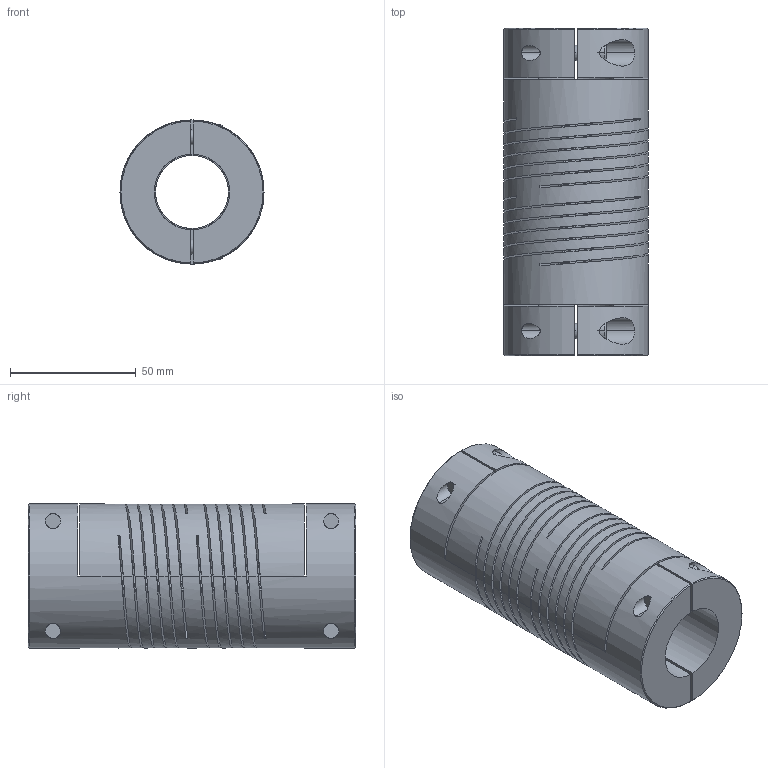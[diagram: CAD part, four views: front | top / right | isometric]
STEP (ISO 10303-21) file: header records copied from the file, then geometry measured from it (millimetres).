
FILE_DESCRIPTION((''),'2;1');
FILE_NAME('703_57','2006-12-06T',('Gary Melling'),(''),'PRO/ENGINEER BY PARAMETRIC TECHNOLOGY CORPORATION, 2006240','PRO/ENGINEER BY PARAMETRIC TECHNOLOGY CORPORATION, 2006240','');
FILE_SCHEMA(('CONFIG_CONTROL_DESIGN'));
Length unit declared in the file: millimetre
Products named in the file (1): 703_57
Bounding box: 57.2 x 130 x 57.2 mm (x, y, z)
Volume: 222012.1 mm3; surface area: 89023.3 mm2
Topology: 1 solids, 1 shells, 178 faces, 496 edges, 324 vertices
Faces by surface type: plane 78, cylinder 76, bspline 12, cone 12
Entity records: 9327 total; most frequent: CARTESIAN_POINT 4907, ORIENTED_EDGE 992, DIRECTION 780, EDGE_CURVE 496, VERTEX_POINT 324, VECTOR 264, LINE 264, AXIS2_PLACEMENT_3D 258
